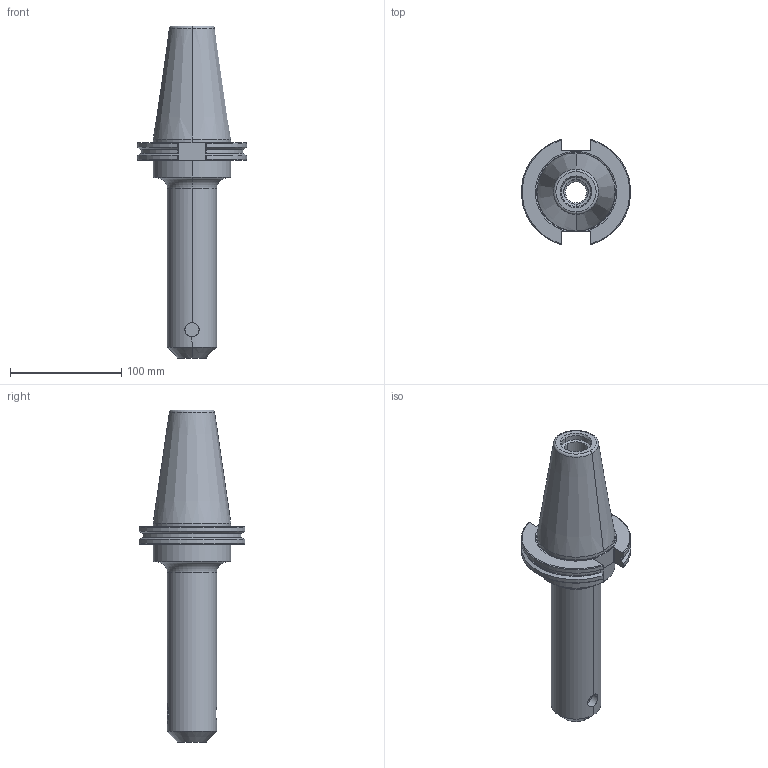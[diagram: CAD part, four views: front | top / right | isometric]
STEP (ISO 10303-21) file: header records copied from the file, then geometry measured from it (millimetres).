
FILE_DESCRIPTION (( 'STEP AP214' ), '1' );
FILE_NAME ('RC5EM07507750.STEP', '2019-02-08T14:42:28', ( '' ), ( '' ), 'SwSTEP 2.0', 'SolidWorks 2019', '' );
FILE_SCHEMA (( 'AUTOMOTIVE_DESIGN' ));
Length unit declared in the file: inch
Products named in the file (1): RC5EM07507750
Bounding box: 98.05 x 94.95 x 298.45 mm (x, y, z)
Volume: 560516.7 mm3; surface area: 81300 mm2
Topology: 1 solids, 1 shells, 117 faces, 301 edges, 186 vertices
Faces by surface type: cylinder 36, plane 36, cone 29, torus 16
Entity records: 4046 total; most frequent: CARTESIAN_POINT 1127, DIRECTION 604, ORIENTED_EDGE 594, EDGE_CURVE 297, AXIS2_PLACEMENT_3D 239, VERTEX_POINT 186, VECTOR 126, LINE 126
